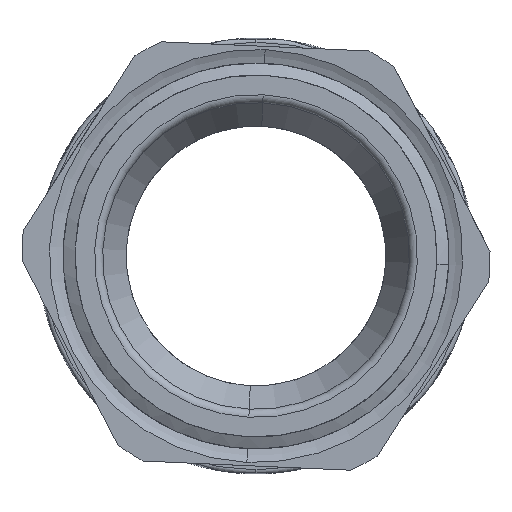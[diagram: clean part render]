
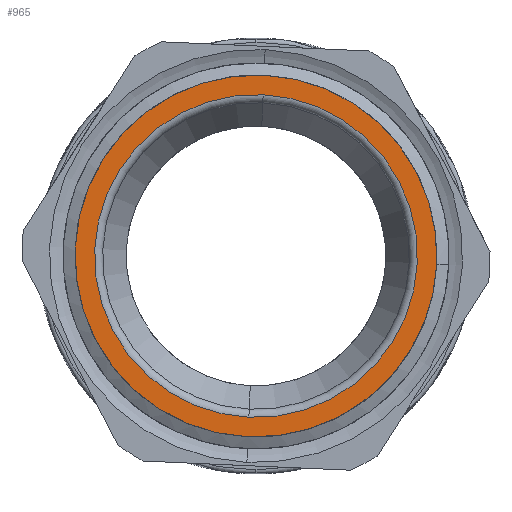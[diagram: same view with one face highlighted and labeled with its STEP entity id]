
A CAD part, front view. The second image highlights one B-rep face of the part: STEP entity #965.
In plain terms, the highlighted planar face has unit normal (0, -1, 0).
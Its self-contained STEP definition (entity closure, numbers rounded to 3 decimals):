
#965 = ADVANCED_FACE ( 'NONE', ( #24025, #14024 ), #16111, .T. ) ;
#2217 = VERTEX_POINT ( 'NONE', #17974 ) ;
#3165 = DIRECTION ( 'NONE',  ( 0., -1., 0. ) ) ;
#4218 = DIRECTION ( 'NONE',  ( 0., 0., -1. ) ) ;
#4475 = DIRECTION ( 'NONE',  ( 0., -1., 0. ) ) ;
#4477 = DIRECTION ( 'NONE',  ( 0., 0., -1. ) ) ;
#4953 = AXIS2_PLACEMENT_3D ( 'NONE', #13848, #30294, #4477 ) ;
#5327 = EDGE_CURVE ( 'NONE', #11032, #21916, #5670, .T. ) ;
#5471 = EDGE_CURVE ( 'NONE', #2217, #11032, #29706, .T. ) ;
#5670 = CIRCLE ( 'NONE', #6190, 22.422 ) ;
#6190 = AXIS2_PLACEMENT_3D ( 'NONE', #15753, #18021, #22769 ) ;
#6669 = ORIENTED_EDGE ( 'NONE', *, *, #17970, .T. ) ;
#7964 = AXIS2_PLACEMENT_3D ( 'NONE', #11429, #30441, #25562 ) ;
#8922 = ORIENTED_EDGE ( 'NONE', *, *, #13781, .F. ) ;
#10621 = ORIENTED_EDGE ( 'NONE', *, *, #5327, .T. ) ;
#10955 = CIRCLE ( 'NONE', #14056, 20. ) ;
#11032 = VERTEX_POINT ( 'NONE', #24880 ) ;
#11429 = CARTESIAN_POINT ( 'NONE',  ( 0., 0., 0. ) ) ;
#11461 = CARTESIAN_POINT ( 'NONE',  ( 0., 0., 20. ) ) ;
#12219 = CARTESIAN_POINT ( 'NONE',  ( 0., 0., -20. ) ) ;
#13781 = EDGE_CURVE ( 'NONE', #24020, #17265, #10955, .T. ) ;
#13848 = CARTESIAN_POINT ( 'NONE',  ( 20., 0., 0. ) ) ;
#14024 = FACE_BOUND ( 'NONE', #30658, .T. ) ;
#14056 = AXIS2_PLACEMENT_3D ( 'NONE', #16109, #4475, #23341 ) ;
#14820 = CIRCLE ( 'NONE', #28632, 20. ) ;
#15747 = ORIENTED_EDGE ( 'NONE', *, *, #22875, .F. ) ;
#15753 = CARTESIAN_POINT ( 'NONE',  ( 0., 0., 0. ) ) ;
#16109 = CARTESIAN_POINT ( 'NONE',  ( 0., 0., 0. ) ) ;
#16111 = PLANE ( 'NONE',  #4953 ) ;
#16806 = CARTESIAN_POINT ( 'NONE',  ( 0., 0., -22.422 ) ) ;
#17265 = VERTEX_POINT ( 'NONE', #11461 ) ;
#17970 = EDGE_CURVE ( 'NONE', #21916, #2217, #24086, .T. ) ;
#17974 = CARTESIAN_POINT ( 'NONE',  ( 22.422, 0., 0. ) ) ;
#18021 = DIRECTION ( 'NONE',  ( 0., -1., 0. ) ) ;
#18329 = CARTESIAN_POINT ( 'NONE',  ( 0., 0., 0. ) ) ;
#19043 = AXIS2_PLACEMENT_3D ( 'NONE', #28867, #3165, #22241 ) ;
#21916 = VERTEX_POINT ( 'NONE', #16806 ) ;
#22241 = DIRECTION ( 'NONE',  ( 0., 0., -1. ) ) ;
#22769 = DIRECTION ( 'NONE',  ( 0., 0., -1. ) ) ;
#22875 = EDGE_CURVE ( 'NONE', #17265, #24020, #14820, .T. ) ;
#23341 = DIRECTION ( 'NONE',  ( 0., 0., -1. ) ) ;
#24020 = VERTEX_POINT ( 'NONE', #12219 ) ;
#24025 = FACE_OUTER_BOUND ( 'NONE', #26061, .T. ) ;
#24086 = CIRCLE ( 'NONE', #19043, 22.422 ) ;
#24880 = CARTESIAN_POINT ( 'NONE',  ( 0., 0., 22.422 ) ) ;
#25562 = DIRECTION ( 'NONE',  ( 0., 0., -1. ) ) ;
#26061 = EDGE_LOOP ( 'NONE', ( #28842, #10621, #6669 ) ) ;
#28632 = AXIS2_PLACEMENT_3D ( 'NONE', #18329, #29732, #4218 ) ;
#28842 = ORIENTED_EDGE ( 'NONE', *, *, #5471, .T. ) ;
#28867 = CARTESIAN_POINT ( 'NONE',  ( 0., 0., 0. ) ) ;
#29706 = CIRCLE ( 'NONE', #7964, 22.422 ) ;
#29732 = DIRECTION ( 'NONE',  ( 0., -1., 0. ) ) ;
#30294 = DIRECTION ( 'NONE',  ( 0., -1., 0. ) ) ;
#30441 = DIRECTION ( 'NONE',  ( 0., -1., 0. ) ) ;
#30658 = EDGE_LOOP ( 'NONE', ( #8922, #15747 ) ) ;
